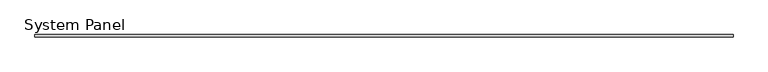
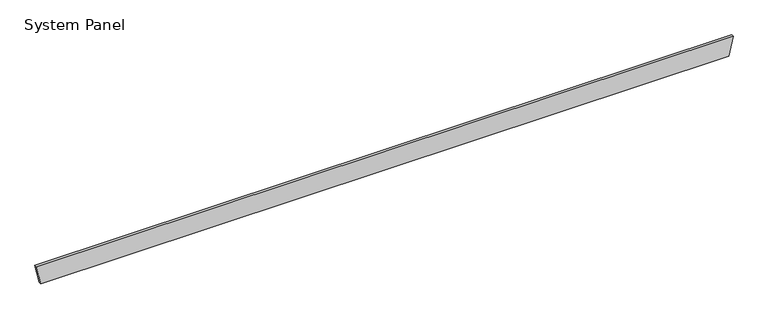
"""IFC4 building model written with IfcOpenShell, lengths in millimetres: plate geometry, System Panel : MetecnoPanel_50mm_Plain_Surfmist."""

from ifc_helpers import new_model, si_unit, frame, origin, place, context, project, spatial, polyline, outline, extrude, source, transform, mapped, element, save


def system_panel_ad70d7ff(model_context):
    return source(origin(), model_context, "Body", "SweptSolid", [
        extrude(outline(polyline([(0.0, -6717.3970701), (0.0, 6717.3970701), (379.9704237, 6800.0), (379.9704237, -6800.0), (0.0, -6717.3970701)])), frame((0.0, -50.0, 0.0), z_axis=(0.0, 1.0, 0.0), x_axis=(0.0, 0.0, 1.0)), (0.0, 0.0, 1.0), 50.0),
    ])


if __name__ == "__main__":
    model = new_model("IFC4")
    model_context = context("Model", 3, world=origin())
    ifc_project = project(units=[si_unit("LENGTHUNIT", "METRE", prefix="MILLI")], contexts=[model_context])
    site = spatial("IfcSite", under=ifc_project)
    building = spatial("IfcBuilding", under=site)
    placement = place(None, origin())
    system_panel_shape = system_panel_ad70d7ff(model_context)
    element("IfcPlate", 1, ObjectType="System Panel : MetecnoPanel_50mm_Plain_Surfmist", at=placement, inside=building, context=model_context, shape_type="MappedRepresentation", body=[
        mapped(system_panel_shape, transform((0.0, 0.0, 0.0), x_axis=(1.0, 0.0, 0.0), y_axis=(0.0, 1.0, 0.0), z_axis=(0.0, 0.0, 1.0))),
    ])
    save(model, "model.ifc")
